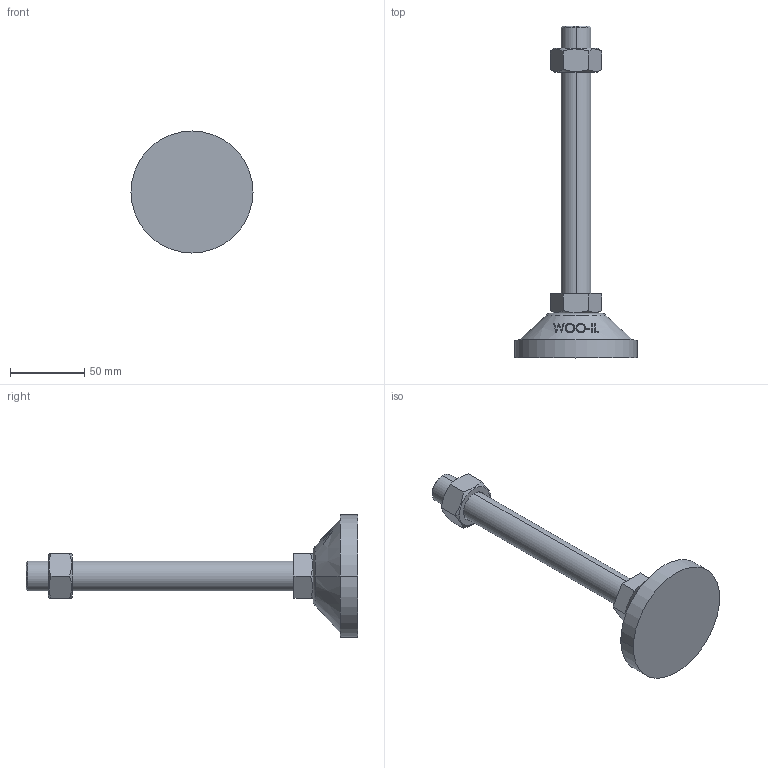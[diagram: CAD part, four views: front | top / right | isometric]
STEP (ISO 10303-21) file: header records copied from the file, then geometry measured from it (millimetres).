
FILE_DESCRIPTION (( 'STEP AP214' ), '1' );
FILE_NAME ('RL82-M20-180.step', '2021-01-06T08:18:46', ( '' ), ( '' ), 'SwSTEP 2.0', 'SolidWorks 2019', '' );
FILE_SCHEMA (( 'AUTOMOTIVE_DESIGN' ));
Length unit declared in the file: millimetre
Products named in the file (1): RL82-M20-180
Bounding box: 82 x 223 x 82 mm (x, y, z)
Volume: 184760.8 mm3; surface area: 32455.8 mm2
Topology: 3 solids, 3 shells, 93 faces, 217 edges, 140 vertices
Faces by surface type: plane 47, cone 22, bspline 16, cylinder 6, torus 2
Entity records: 4235 total; most frequent: CARTESIAN_POINT 2203, ORIENTED_EDGE 434, DIRECTION 349, EDGE_CURVE 217, VERTEX_POINT 140, AXIS2_PLACEMENT_3D 134, EDGE_LOOP 105, FACE_OUTER_BOUND 93
